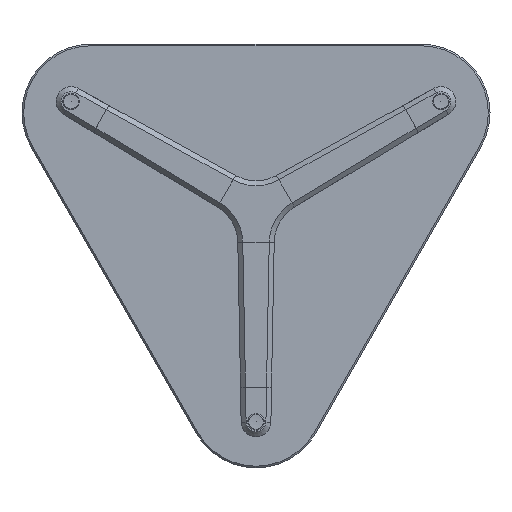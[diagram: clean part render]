
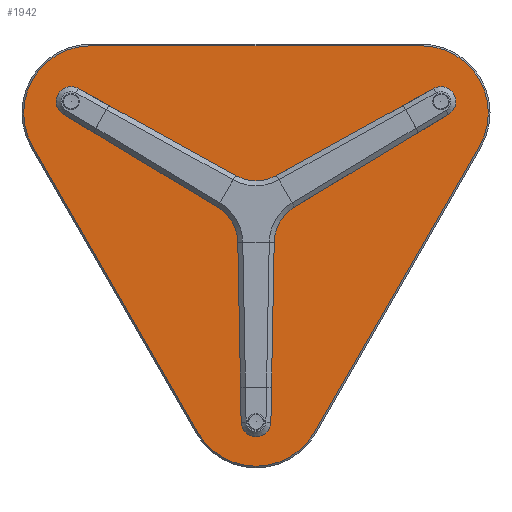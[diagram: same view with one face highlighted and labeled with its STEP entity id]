
A CAD part, front view. The second image highlights one B-rep face of the part: STEP entity #1942.
In plain terms, the highlighted planar face has unit normal (0, -1, 0).
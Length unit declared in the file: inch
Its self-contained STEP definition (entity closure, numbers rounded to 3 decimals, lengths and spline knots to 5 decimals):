
#339=PLANE('',#2381);
#450=FACE_OUTER_BOUND('',#582,.T.);
#582=EDGE_LOOP('',(#1739,#1740,#1741,#1742,#1743,#1744));
#690=LINE('',#3916,#818);
#694=LINE('',#3928,#822);
#698=LINE('',#3940,#826);
#818=VECTOR('',#2908,0.3937);
#822=VECTOR('',#2920,0.3937);
#826=VECTOR('',#2932,0.3937);
#930=CIRCLE('',#2368,2.53558);
#932=CIRCLE('',#2372,2.53558);
#934=CIRCLE('',#2376,2.53558);
#1062=VERTEX_POINT('',#3909);
#1065=VERTEX_POINT('',#3914);
#1066=VERTEX_POINT('',#3918);
#1068=VERTEX_POINT('',#3924);
#1070=VERTEX_POINT('',#3930);
#1072=VERTEX_POINT('',#3936);
#1282=EDGE_CURVE('',#1065,#1062,#690,.T.);
#1285=EDGE_CURVE('',#1062,#1066,#930,.T.);
#1288=EDGE_CURVE('',#1066,#1068,#694,.T.);
#1291=EDGE_CURVE('',#1068,#1070,#932,.T.);
#1294=EDGE_CURVE('',#1070,#1072,#698,.T.);
#1296=EDGE_CURVE('',#1072,#1065,#934,.T.);
#1739=ORIENTED_EDGE('',*,*,#1282,.F.);
#1740=ORIENTED_EDGE('',*,*,#1296,.F.);
#1741=ORIENTED_EDGE('',*,*,#1294,.F.);
#1742=ORIENTED_EDGE('',*,*,#1291,.F.);
#1743=ORIENTED_EDGE('',*,*,#1288,.F.);
#1744=ORIENTED_EDGE('',*,*,#1285,.F.);
#1942=ADVANCED_FACE('',(#450),#339,.F.);
#2368=AXIS2_PLACEMENT_3D('',#3922,#2914,#2915);
#2372=AXIS2_PLACEMENT_3D('',#3934,#2926,#2927);
#2376=AXIS2_PLACEMENT_3D('',#3943,#2937,#2938);
#2381=AXIS2_PLACEMENT_3D('',#3958,#2953,#2954);
#2908=DIRECTION('',(-0.5,0.,-0.866));
#2914=DIRECTION('center_axis',(0.,1.,0.));
#2915=DIRECTION('ref_axis',(0.866,0.,-0.5));
#2920=DIRECTION('',(-0.5,0.,0.866));
#2926=DIRECTION('center_axis',(0.,1.,0.));
#2927=DIRECTION('ref_axis',(-0.866,0.,-0.5));
#2932=DIRECTION('',(1.,0.,0.));
#2937=DIRECTION('center_axis',(0.,1.,0.));
#2938=DIRECTION('ref_axis',(0.,0.,1.));
#2953=DIRECTION('center_axis',(0.,1.,0.));
#2954=DIRECTION('ref_axis',(0.,0.,1.));
#3909=CARTESIAN_POINT('',(2.19587,0.,-8.47035));
#3914=CARTESIAN_POINT('',(8.43348,0.,2.33349));
#3916=CARTESIAN_POINT('',(6.48423,0.,-1.04271));
#3918=CARTESIAN_POINT('',(-2.19587,0.,-8.47035));
#3922=CARTESIAN_POINT('Origin',(0.,0.,-7.20257));
#3924=CARTESIAN_POINT('',(-8.43348,0.,2.33349));
#3928=CARTESIAN_POINT('',(-3.36542,0.,-6.44463));
#3930=CARTESIAN_POINT('',(-6.2376,0.,6.13686));
#3934=CARTESIAN_POINT('Origin',(-6.2376,0.,3.60128));
#3936=CARTESIAN_POINT('',(6.2376,0.,6.13686));
#3940=CARTESIAN_POINT('',(-3.1188,0.,6.13686));
#3943=CARTESIAN_POINT('Origin',(6.2376,0.,3.60128));
#3958=CARTESIAN_POINT('Origin',(0.,0.,-1.80064));
